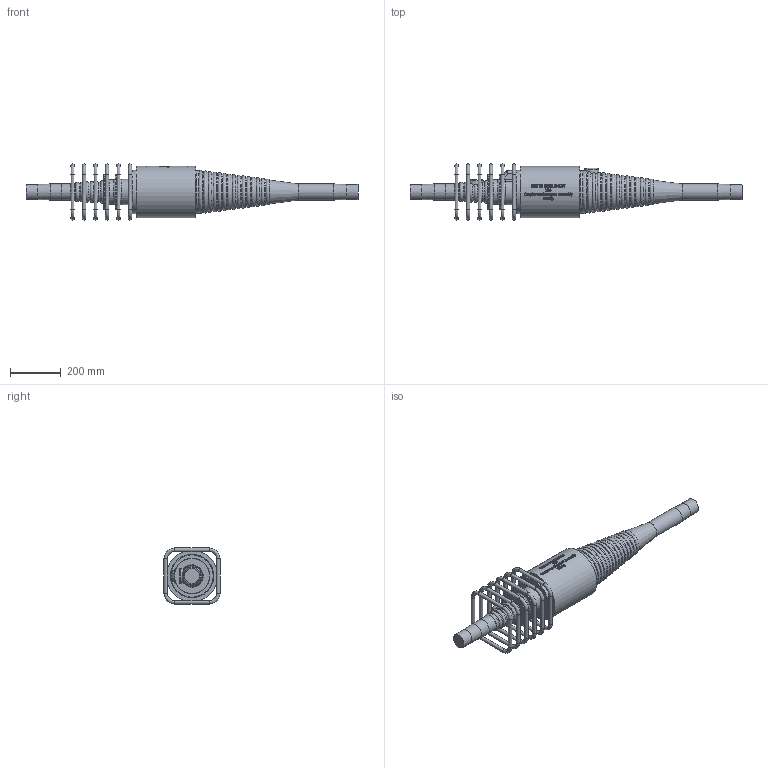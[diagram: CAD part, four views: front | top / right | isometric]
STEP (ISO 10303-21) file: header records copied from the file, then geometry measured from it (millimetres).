
FILE_DESCRIPTION(/* description */ (''),/* implementation_level */ '2;1');
FILE_NAME(/* name */ 'BBR VT CONA CMI BT 706_Coupler H Assembly_CS-43,35_Stirrup.stp',/* time_stamp */ '2024-11-20T13:38:41+01:00',/* author */ ('tk'),/* organization */ (''),/* preprocessor_version */ 'ST-DEVELOPER v20',/* originating_system */ 'Autodesk Inventor 2024',/* authorisation */ '');
FILE_SCHEMA (('AUTOMOTIVE_DESIGN { 1 0 10303 214 3 1 1 }'));
Products named in the file (1): BBR VT CONA CMI BT 706_Coupler H Assembly_CS-43,35_Stirrup
Bounding box: 1303 x 220 x 220 mm (x, y, z)
Volume: 16374943 mm3; surface area: 744016.2 mm2
Topology: 7 solids, 7 shells, 1030 faces, 2732 edges, 1774 vertices
Faces by surface type: bspline 410, plane 348, cylinder 115, torus 108, cone 25, sphere 24
Full cylindrical faces by diameter (mm): 14 x24, 57 x2, 59 x2, 64 x2, 133.801 x1, 139.387 x1, 170 x1, 203 x1
Entity records: 45076 total; most frequent: CARTESIAN_POINT 20682, ORIENTED_EDGE 5452, DIRECTION 3973, EDGE_CURVE 2726, VERTEX_POINT 1774, AXIS2_PLACEMENT_3D 1447, EDGE_LOOP 1106, LINE 1079
